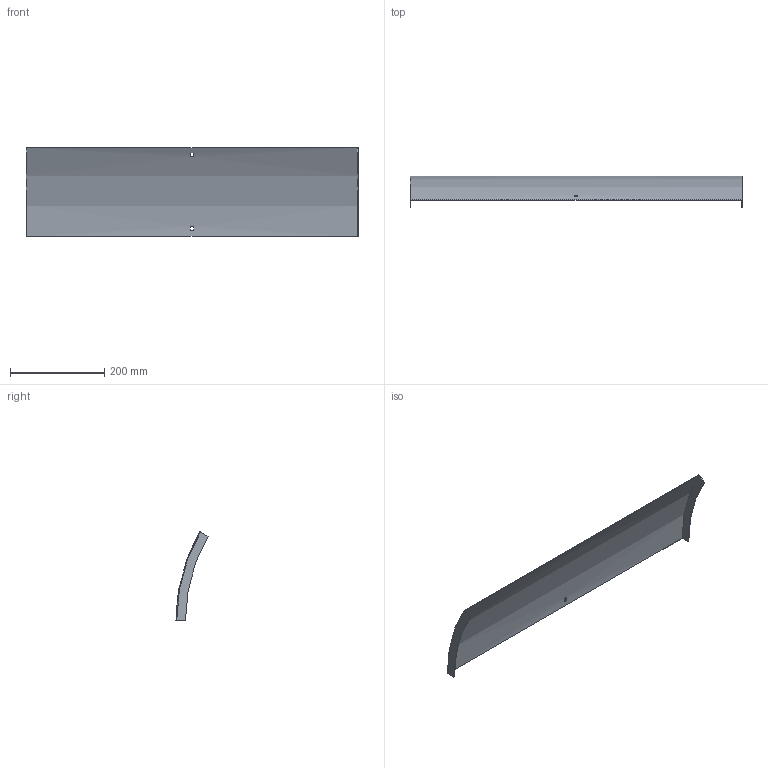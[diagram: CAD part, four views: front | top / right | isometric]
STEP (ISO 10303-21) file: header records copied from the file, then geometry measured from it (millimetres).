
FILE_DESCRIPTION (( 'STEP AP214' ), '1' );
FILE_NAME ('B2_35N3C700.step', '2025-02-21T10:32:04', ( '' ), ( '' ), 'SwSTEP 2.0', 'SolidWorks 2023', '' );
FILE_SCHEMA (( 'AUTOMOTIVE_DESIGN' ));
Length unit declared in the file: millimetre
Products named in the file (1): B2_35N3C700
Bounding box: 703 x 67.76 x 188.25 mm (x, y, z)
Volume: 217917.6 mm3; surface area: 293431.1 mm2
Topology: 1 solids, 1 shells, 18 faces, 48 edges, 32 vertices
Faces by surface type: plane 14, cylinder 4
Entity records: 599 total; most frequent: DIRECTION 102, CARTESIAN_POINT 99, ORIENTED_EDGE 96, EDGE_CURVE 48, AXIS2_PLACEMENT_3D 35, VECTOR 32, LINE 32, VERTEX_POINT 32
